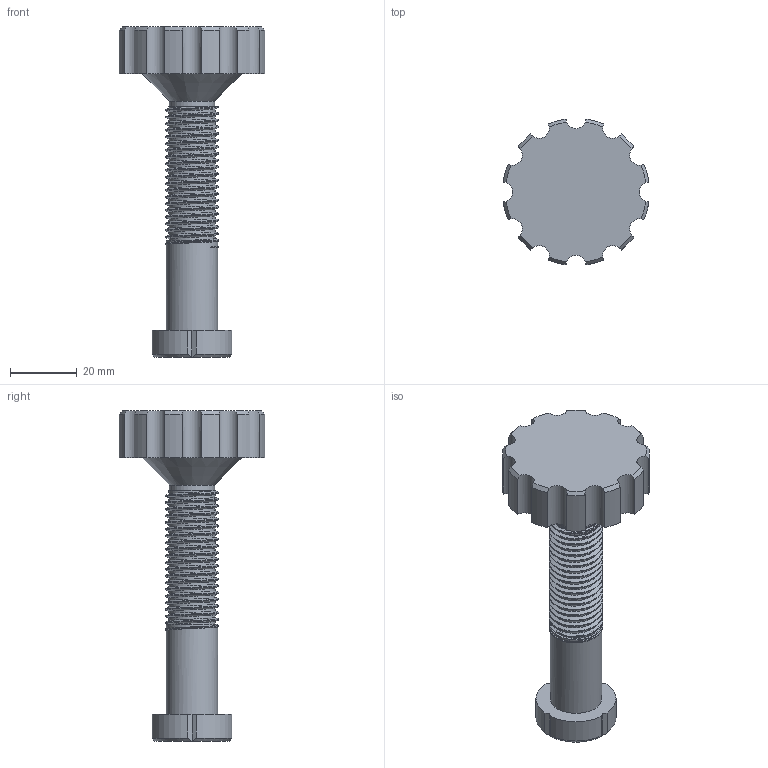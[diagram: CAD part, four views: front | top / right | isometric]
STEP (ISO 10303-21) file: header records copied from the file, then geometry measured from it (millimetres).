
FILE_DESCRIPTION(('Open CASCADE Model'),'2;1');
FILE_NAME('Open CASCADE Shape Model','2026-08-23T08:04:22',('Author'),( 'Open CASCADE'),'Open CASCADE STEP processor 7.9','Open CASCADE 7.9' ,'Unknown');
FILE_SCHEMA(('AUTOMOTIVE_DESIGN { 1 0 10303 214 1 1 1 1 }'));
Length unit declared in the file: millimetre
Products named in the file (2): =>[0:1:1:2]; COMPOUND
Assembly tree (1 placements, depth 2):
  =>[0:1:1:2]
    COMPOUND
Bounding box: 43.59 x 43.59 x 99 mm (x, y, z)
Volume: 37758.7 mm3; surface area: 11114.4 mm2
Topology: 1 solids, 1 shells, 87 faces, 245 edges, 163 vertices
Faces by surface type: cylinder 52, cone 17, plane 15, bspline 3
Full cylindrical faces by diameter (mm): 13.535 x1, 13.835 x19, 15.4 x1
Entity records: 14630 total; most frequent: CARTESIAN_POINT 10280, DIRECTION 641, ORIENTED_EDGE 490, PCURVE 490, DEFINITIONAL_REPRESENTATION 490, B_SPLINE_CURVE_WITH_KNOTS 342, EDGE_CURVE 245, SURFACE_CURVE 242
